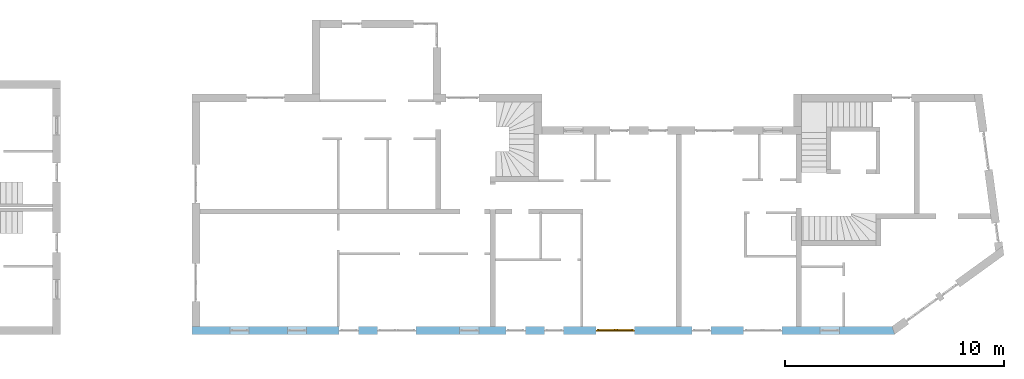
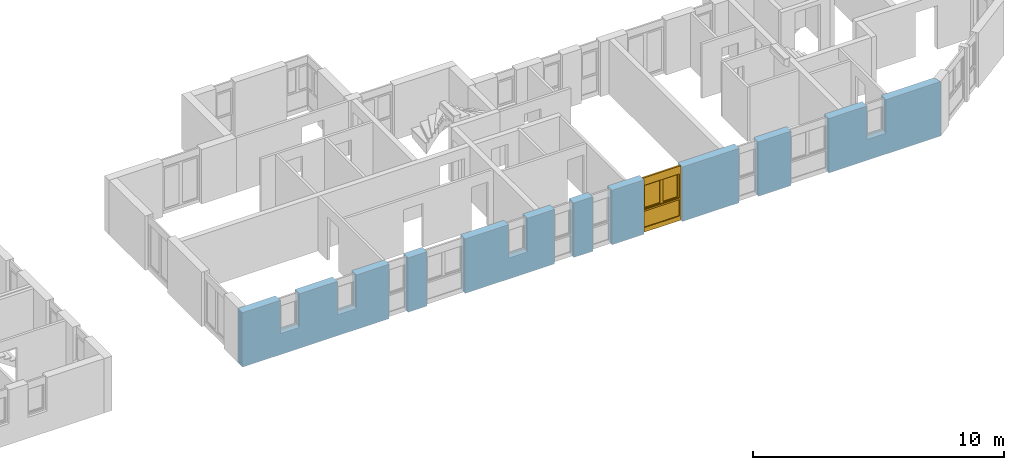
# One storey, part 31 of 42: 1 window, 11 openings, plus 1 element that does not belong to this part.
"""IFC2X3 building model written with IfcOpenShell, lengths in millimetres."""

from ifc_helpers import new_model, entity, si_unit, converted_unit, frame, frame_2d, origin, origin_with_axes, place, context, subcontext, project, spatial, polyline, rectangle, outline, extrude, faceted_brep, material, layer, layer_set, layer_usage, type_object, element, fill, save


model = new_model("IFC2X3")

# Units and contexts
model_context = context("Model", 3, precision=1e-05, world=origin())
body_context = subcontext(model_context, "Body", "Model", "MODEL_VIEW")
ifc_project = project(units=[si_unit("LENGTHUNIT", "METRE", prefix="MILLI"), converted_unit("PLANEANGLEUNIT", "DEGREE", entity("IfcPlaneAngleMeasure", 0.0174532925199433), si_unit("PLANEANGLEUNIT", "RADIAN"), dimensions=[0, 0, 0, 0, 0, 0, 0]), si_unit("AREAUNIT", "SQUARE_METRE"), si_unit("VOLUMEUNIT", "CUBIC_METRE")], contexts=[model_context])

# Building, storey
building_placement = place(None, origin())
building = spatial("IfcBuilding", under=ifc_project, at=building_placement, Name="Gebäude", CompositionType="ELEMENT")
storey_placement = place(building_placement, frame((0.0, 0.0, 2730.0), z_axis=(0.0, 0.0, 1.0), x_axis=(1.0, 0.0, 0.0)))
storey = spatial("IfcBuildingStorey", under=building, at=storey_placement, Name="OG.- Grundriss", CompositionType="ELEMENT", Elevation=2730.0)

# Wall, openings, window
ifc_material_1 = material(Name="Poroton")
ifc_layer = layer(ifc_material_1, 365.0000000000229)
ifc_layer_set = layer_set([ifc_layer])
ifc_layer_usage = layer_usage(ifc_layer_set, "AXIS2", "POSITIVE", 0.0)
wall_placement = place(storey_placement, frame((148357.7928067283, 125274.8877324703, 0.0), z_axis=(0.0, 0.0, 1.0), x_axis=(1.0, -2.749268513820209e-11, 0.0)))
wall = element("IfcWallStandardCase", 1, at=wall_placement, inside=storey, material=ifc_layer_usage, Name="<Unnamed Element>", context=body_context, shape_type="SweptSolid", body=[
    extrude(outline(polyline([(0.0, 0.0), (32144.99999877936, 0.0), (32026.74038666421, 365.0000000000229), (-1.003483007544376e-08, 365.0), (0.0, 0.0)])), origin_with_axes(), (0.0, 0.0, 1.0), 2650.0),
])
opening_1_placement = place(wall_placement, frame((22865.29648749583, -9.393166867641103e-11, 0.0), z_axis=(0.0, 1.0, 0.0), x_axis=(0.0, 0.0, 1.0)))
element("IfcOpeningElement", 2, at=opening_1_placement, cuts=wall, Name="Fensteröffnung", ObjectType="Opening", context=body_context, shape_type="SweptSolid", body=[
    extrude(rectangle(XDim=2650.0, YDim=885.0, at=frame_2d((1325.0, 442.5), x_axis=(1.0, 0.0))), origin_with_axes(), (0.0, 0.0, 1.0), 365.0000000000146),
])
opening_2_placement = place(wall_placement, frame((25240.29648749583, -1.030266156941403e-10, 0.0), z_axis=(0.0, 1.0, 0.0), x_axis=(0.0, 0.0, 1.0)))
element("IfcOpeningElement", 3, at=opening_2_placement, cuts=wall, Name="Fensteröffnung", ObjectType="Opening", context=body_context, shape_type="SweptSolid", body=[
    extrude(rectangle(XDim=2650.0, YDim=1760.0, at=frame_2d((1325.0, 880.0), x_axis=(1.0, 0.0))), origin_with_axes(), (0.0, 0.0, 1.0), 365.0000000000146),
])
opening_3_placement = place(wall_placement, frame((14365.26291869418, -5.847463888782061e-11, 0.0), z_axis=(0.0, 1.0, 0.0), x_axis=(0.0, 0.0, 1.0)))
element("IfcOpeningElement", 4, at=opening_3_placement, cuts=wall, Name="Fensteröffnung", ObjectType="Opening", context=body_context, shape_type="SweptSolid", body=[
    extrude(rectangle(XDim=2650.0, YDim=885.0, at=frame_2d((1325.0, 442.5), x_axis=(1.0, 0.0))), origin_with_axes(), (0.0, 0.0, 1.0), 365.0000000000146),
])
opening_4_placement = place(wall_placement, frame((16123.92212975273, -7.146586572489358e-11, 0.0), z_axis=(0.0, 1.0, 0.0), x_axis=(0.0, 0.0, 1.0)))
element("IfcOpeningElement", 5, at=opening_4_placement, cuts=wall, Name="Fensteröffnung", ObjectType="Opening", context=body_context, shape_type="SweptSolid", body=[
    extrude(rectangle(XDim=2650.0, YDim=885.0, at=frame_2d((1325.0, 442.5), x_axis=(1.0, 0.0))), origin_with_axes(), (0.0, 0.0, 1.0), 365.0000000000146),
])
opening_5_placement = place(wall_placement, frame((6739.999999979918, -3.114109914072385e-11, 0.0), z_axis=(0.0, 1.0, 0.0), x_axis=(0.0, 0.0, 1.0)))
element("IfcOpeningElement", 6, at=opening_5_placement, cuts=wall, Name="Fensteröffnung", ObjectType="Opening", context=body_context, shape_type="SweptSolid", body=[
    extrude(rectangle(XDim=2650.0, YDim=885.0, at=frame_2d((1325.0, 442.5), x_axis=(1.0, 0.0))), origin_with_axes(), (0.0, 0.0, 1.0), 365.0000000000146),
])
opening_6_placement = place(wall_placement, frame((8489.999999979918, -3.477907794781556e-11, 0.0), z_axis=(0.0, 1.0, 0.0), x_axis=(0.0, 0.0, 1.0)))
element("IfcOpeningElement", 7, at=opening_6_placement, cuts=wall, Name="Fensteröffnung", ObjectType="Opening", context=body_context, shape_type="SweptSolid", body=[
    extrude(rectangle(XDim=2650.0, YDim=1760.0, at=frame_2d((1325.0, 880.0), x_axis=(1.0, 0.0))), origin_with_axes(), (0.0, 0.0, 1.0), 365.0000000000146),
])
opening_7_placement = place(wall_placement, frame((1740.0, -3.114109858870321e-11, 1020.0), z_axis=(0.0, 1.0, 0.0), x_axis=(0.0, 0.0, 1.0)))
element("IfcOpeningElement", 8, at=opening_7_placement, cuts=wall, Name="Fensteröffnung", ObjectType="Opening", context=body_context, shape_type="SweptSolid", body=[
    extrude(rectangle(XDim=1630.0, YDim=885.0, at=frame_2d((815.0, 442.5), x_axis=(1.0, 0.0))), origin_with_axes(), (0.0, 0.0, 1.0), 365.0000000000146),
])
opening_8_placement = place(wall_placement, frame((4365.0, -7.494236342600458e-12, 1020.0), z_axis=(0.0, 1.0, 0.0), x_axis=(0.0, 0.0, 1.0)))
element("IfcOpeningElement", 9, at=opening_8_placement, cuts=wall, Name="Fensteröffnung", ObjectType="Opening", context=body_context, shape_type="SweptSolid", body=[
    extrude(rectangle(XDim=1630.0, YDim=885.0, at=frame_2d((815.0, 442.5), x_axis=(1.0, 0.0))), origin_with_axes(), (0.0, 0.0, 1.0), 365.0000000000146),
])
opening_9_placement = place(wall_placement, frame((12240.0, -5.296897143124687e-11, 1020.0), z_axis=(0.0, 1.0, 0.0), x_axis=(0.0, 0.0, 1.0)))
element("IfcOpeningElement", 10, at=opening_9_placement, cuts=wall, Name="Fensteröffnung", ObjectType="Opening", context=body_context, shape_type="SweptSolid", body=[
    extrude(rectangle(XDim=1630.0, YDim=885.0, at=frame_2d((815.0, 442.5), x_axis=(1.0, 0.0))), origin_with_axes(), (0.0, 0.0, 1.0), 365.0000000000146),
])
opening_10_placement = place(wall_placement, frame((18490.51063065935, -4.984640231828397e-11, 0.0), z_axis=(0.0, 1.0, 0.0), x_axis=(0.0, 0.0, 1.0)))
opening_10 = element("IfcOpeningElement", 11, at=opening_10_placement, cuts=wall, Name="Fensteröffnung", ObjectType="Opening", context=body_context, shape_type="SweptSolid", body=[
    extrude(rectangle(XDim=2650.0, YDim=1760.0, at=frame_2d((1325.0, 880.0), x_axis=(1.0, 0.0))), origin_with_axes(), (0.0, 0.0, 1.0), 365.0000000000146),
])
opening_11_placement = place(wall_placement, frame((28740.29648749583, -1.103025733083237e-10, 1020.0), z_axis=(0.0, 1.0, 0.0), x_axis=(0.0, 0.0, 1.0)))
element("IfcOpeningElement", 12, at=opening_11_placement, cuts=wall, Name="Fensteröffnung", ObjectType="Opening", context=body_context, shape_type="SweptSolid", body=[
    extrude(rectangle(XDim=1630.0, YDim=885.0, at=frame_2d((815.0, 442.5), x_axis=(1.0, 0.0))), origin_with_axes(), (0.0, 0.0, 1.0), 365.0000000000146),
])
ifc_material_2 = material()
window_style = type_object("IfcWindowStyle", Name="Fenster", ConstructionType="NOTDEFINED", OperationType="USERDEFINED", ParameterTakesPrecedence=False, Sizeable=False)
window_placement = place(opening_10_placement, frame((0.0, 0.0, 0.0), z_axis=(1.0, 0.0, 0.0), x_axis=(0.0, 1.0, 0.0)))
window = element("IfcWindow", 13, at=window_placement, inside=storey, type_object=window_style, material=ifc_material_2, Name="Fenster", OverallHeight=2650.0, OverallWidth=1760.0, context=body_context, shape_type="Brep", body=[
    faceted_brep([(-1.221113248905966e-08, 199.9999999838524, 2650.0), (-1.221113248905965e-08, 199.9999999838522, -2.449293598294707e-15), (69.99999998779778, 199.9999999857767, -2.449293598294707e-15), (69.99999998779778, 199.9999999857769, 2650.0), (-1.001171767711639e-08, 119.9999999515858, 2.449293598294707e-15), (-1.00117176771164e-08, 119.9999999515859, 2650.0), (69.99999998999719, 119.9999999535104, 2650.0), (69.99999998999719, 119.9999999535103, 2.449293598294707e-15), (-1.221113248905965e-08, 199.9999999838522, -2.449293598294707e-15), (-1.221113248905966e-08, 199.9999999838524, 2650.0), (-1.00117176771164e-08, 119.9999999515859, 2650.0), (-1.001171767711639e-08, 119.9999999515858, 2.449293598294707e-15), (69.99999998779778, 199.9999999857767, -2.449293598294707e-15), (-1.221113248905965e-08, 199.9999999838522, -2.449293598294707e-15), (-1.001171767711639e-08, 119.9999999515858, 2.449293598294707e-15), (69.99999998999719, 119.9999999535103, 2.449293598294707e-15), (69.99999998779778, 199.9999999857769, 2650.0), (69.99999998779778, 199.9999999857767, -2.449293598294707e-15), (69.99999998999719, 119.9999999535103, 2.449293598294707e-15), (69.99999998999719, 119.9999999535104, 2650.0), (-1.221113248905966e-08, 199.9999999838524, 2650.0), (69.99999998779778, 199.9999999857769, 2650.0), (69.99999998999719, 119.9999999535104, 2650.0), (-1.00117176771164e-08, 119.9999999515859, 2650.0)], [[[0, 1, 2, 3]], [[4, 5, 6, 7]], [[8, 9, 10, 11]], [[12, 13, 14, 15]], [[16, 17, 18, 19]], [[20, 21, 22, 23]]], orient=[[False], [False], [False], [False], [False], [False]]),
    faceted_brep([(1690.000000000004, 200.000000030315, 2650.0), (1690.000000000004, 200.0000000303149, -2.449293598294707e-15), (1760.000000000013, 200.0000000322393, -2.449293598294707e-15), (1760.000000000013, 200.0000000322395, 2650.0), (1690.000000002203, 119.9999999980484, 2.449293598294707e-15), (1690.000000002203, 119.9999999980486, 2650.0), (1760.000000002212, 119.9999999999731, 2650.0), (1760.000000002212, 119.9999999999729, 2.449293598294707e-15), (1690.000000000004, 200.0000000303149, -2.449293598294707e-15), (1690.000000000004, 200.000000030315, 2650.0), (1690.000000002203, 119.9999999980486, 2650.0), (1690.000000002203, 119.9999999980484, 2.449293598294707e-15), (1760.000000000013, 200.0000000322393, -2.449293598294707e-15), (1690.000000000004, 200.0000000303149, -2.449293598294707e-15), (1690.000000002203, 119.9999999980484, 2.449293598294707e-15), (1760.000000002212, 119.9999999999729, 2.449293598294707e-15), (1760.000000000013, 200.0000000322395, 2650.0), (1760.000000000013, 200.0000000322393, -2.449293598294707e-15), (1760.000000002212, 119.9999999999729, 2.449293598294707e-15), (1760.000000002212, 119.9999999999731, 2650.0), (1690.000000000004, 200.000000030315, 2650.0), (1760.000000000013, 200.0000000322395, 2650.0), (1760.000000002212, 119.9999999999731, 2650.0), (1690.000000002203, 119.9999999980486, 2650.0)], [[[0, 1, 2, 3]], [[4, 5, 6, 7]], [[8, 9, 10, 11]], [[12, 13, 14, 15]], [[16, 17, 18, 19]], [[20, 21, 22, 23]]], orient=[[False], [False], [False], [False], [False], [False]]),
    faceted_brep([(69.99999998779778, 199.9999999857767, 220.0), (69.99999998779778, 199.9999999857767, -2.449293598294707e-15), (1690.000000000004, 200.0000000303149, -2.449293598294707e-15), (1690.000000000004, 200.0000000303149, 220.0), (69.99999998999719, 119.9999999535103, 2.449293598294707e-15), (69.99999998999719, 119.9999999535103, 220.0), (1690.000000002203, 119.9999999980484, 220.0), (1690.000000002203, 119.9999999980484, 2.449293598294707e-15), (69.99999998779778, 199.9999999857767, -2.449293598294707e-15), (69.99999998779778, 199.9999999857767, 220.0), (69.99999998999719, 119.9999999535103, 220.0), (69.99999998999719, 119.9999999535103, 2.449293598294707e-15), (1690.000000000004, 200.0000000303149, -2.449293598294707e-15), (69.99999998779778, 199.9999999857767, -2.449293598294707e-15), (69.99999998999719, 119.9999999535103, 2.449293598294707e-15), (1690.000000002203, 119.9999999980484, 2.449293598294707e-15), (1690.000000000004, 200.0000000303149, 220.0), (1690.000000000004, 200.0000000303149, -2.449293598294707e-15), (1690.000000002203, 119.9999999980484, 2.449293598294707e-15), (1690.000000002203, 119.9999999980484, 220.0), (69.99999998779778, 199.9999999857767, 220.0), (1690.000000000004, 200.0000000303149, 220.0), (1690.000000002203, 119.9999999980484, 220.0), (69.99999998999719, 119.9999999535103, 220.0)], [[[0, 1, 2, 3]], [[4, 5, 6, 7]], [[8, 9, 10, 11]], [[12, 13, 14, 15]], [[16, 17, 18, 19]], [[20, 21, 22, 23]]], orient=[[False], [False], [False], [False], [False], [False]]),
    faceted_brep([(69.99999998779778, 199.9999999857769, 2650.0), (69.99999998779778, 199.9999999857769, 2280.0), (1690.000000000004, 200.000000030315, 2280.0), (1690.000000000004, 200.000000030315, 2650.0), (69.99999998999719, 119.9999999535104, 2280.0), (69.99999998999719, 119.9999999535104, 2650.0), (1690.000000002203, 119.9999999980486, 2650.0), (1690.000000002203, 119.9999999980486, 2280.0), (69.99999998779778, 199.9999999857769, 2280.0), (69.99999998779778, 199.9999999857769, 2650.0), (69.99999998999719, 119.9999999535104, 2650.0), (69.99999998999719, 119.9999999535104, 2280.0), (1690.000000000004, 200.000000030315, 2280.0), (69.99999998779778, 199.9999999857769, 2280.0), (69.99999998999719, 119.9999999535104, 2280.0), (1690.000000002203, 119.9999999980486, 2280.0), (1690.000000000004, 200.000000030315, 2650.0), (1690.000000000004, 200.000000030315, 2280.0), (1690.000000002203, 119.9999999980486, 2280.0), (1690.000000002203, 119.9999999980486, 2650.0), (69.99999998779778, 199.9999999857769, 2650.0), (1690.000000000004, 200.000000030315, 2650.0), (1690.000000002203, 119.9999999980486, 2650.0), (69.99999998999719, 119.9999999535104, 2650.0)], [[[0, 1, 2, 3]], [[4, 5, 6, 7]], [[8, 9, 10, 11]], [[12, 13, 14, 15]], [[16, 17, 18, 19]], [[20, 21, 22, 23]]], orient=[[False], [False], [False], [False], [False], [False]]),
    faceted_brep([(69.99999998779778, 199.9999999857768, 1090.0), (69.99999998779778, 199.9999999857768, 1020.0), (1690.000000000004, 200.0000000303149, 1020.0), (1690.000000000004, 200.0000000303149, 1090.0), (69.99999998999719, 119.9999999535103, 1020.0), (69.99999998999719, 119.9999999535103, 1090.0), (1690.000000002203, 119.9999999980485, 1090.0), (1690.000000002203, 119.9999999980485, 1020.0), (69.99999998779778, 199.9999999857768, 1020.0), (69.99999998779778, 199.9999999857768, 1090.0), (69.99999998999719, 119.9999999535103, 1090.0), (69.99999998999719, 119.9999999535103, 1020.0), (1690.000000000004, 200.0000000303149, 1020.0), (69.99999998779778, 199.9999999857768, 1020.0), (69.99999998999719, 119.9999999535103, 1020.0), (1690.000000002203, 119.9999999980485, 1020.0), (1690.000000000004, 200.0000000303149, 1090.0), (1690.000000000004, 200.0000000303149, 1020.0), (1690.000000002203, 119.9999999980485, 1020.0), (1690.000000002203, 119.9999999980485, 1090.0), (69.99999998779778, 199.9999999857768, 1090.0), (1690.000000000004, 200.0000000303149, 1090.0), (1690.000000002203, 119.9999999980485, 1090.0), (69.99999998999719, 119.9999999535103, 1090.0)], [[[0, 1, 2, 3]], [[4, 5, 6, 7]], [[8, 9, 10, 11]], [[12, 13, 14, 15]], [[16, 17, 18, 19]], [[20, 21, 22, 23]]], orient=[[False], [False], [False], [False], [False], [False]]),
    faceted_brep([(69.99999998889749, 159.9999999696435, 220.0), (1690.000000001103, 160.0000000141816, 220.0), (1690.000000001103, 160.0000000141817, 1020.0), (69.99999998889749, 159.9999999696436, 1020.0), (69.99999998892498, 158.9999999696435, 220.0), (69.99999998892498, 158.9999999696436, 1020.0), (1690.000000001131, 159.0000000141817, 1020.0), (1690.000000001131, 159.0000000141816, 220.0), (69.99999998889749, 159.9999999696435, 220.0), (69.99999998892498, 158.9999999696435, 220.0), (1690.000000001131, 159.0000000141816, 220.0), (1690.000000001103, 160.0000000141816, 220.0), (1690.000000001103, 160.0000000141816, 220.0), (1690.000000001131, 159.0000000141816, 220.0), (1690.000000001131, 159.0000000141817, 1020.0), (1690.000000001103, 160.0000000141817, 1020.0), (1690.000000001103, 160.0000000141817, 1020.0), (1690.000000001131, 159.0000000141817, 1020.0), (69.99999998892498, 158.9999999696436, 1020.0), (69.99999998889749, 159.9999999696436, 1020.0), (69.99999998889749, 159.9999999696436, 1020.0), (69.99999998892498, 158.9999999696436, 1020.0), (69.99999998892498, 158.9999999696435, 220.0), (69.99999998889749, 159.9999999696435, 220.0)], [[[0, 1, 2, 3]], [[4, 5, 6, 7]], [[8, 9, 10, 11]], [[12, 13, 14, 15]], [[16, 17, 18, 19]], [[20, 21, 22, 23]]], orient=[[False], [False], [False], [False], [False], [False]]),
    faceted_brep([(49.99999998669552, 240.0000000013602, 2300.0), (49.99999998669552, 240.0000000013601, 1070.0), (119.9999999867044, 240.0000000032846, 1070.0), (119.9999999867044, 240.0000000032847, 2300.0), (49.99999998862, 169.999999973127, 1070.0), (49.99999998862, 169.9999999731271, 2300.0), (119.9999999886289, 169.9999999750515, 2300.0), (119.9999999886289, 169.9999999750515, 1070.0), (49.99999998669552, 240.0000000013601, 1070.0), (49.99999998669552, 240.0000000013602, 2300.0), (49.99999998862, 169.9999999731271, 2300.0), (49.99999998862, 169.999999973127, 1070.0), (119.9999999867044, 240.0000000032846, 1070.0), (49.99999998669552, 240.0000000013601, 1070.0), (49.99999998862, 169.999999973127, 1070.0), (119.9999999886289, 169.9999999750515, 1070.0), (119.9999999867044, 240.0000000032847, 2300.0), (119.9999999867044, 240.0000000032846, 1070.0), (119.9999999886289, 169.9999999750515, 1070.0), (119.9999999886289, 169.9999999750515, 2300.0), (49.99999998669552, 240.0000000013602, 2300.0), (119.9999999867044, 240.0000000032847, 2300.0), (119.9999999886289, 169.9999999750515, 2300.0), (49.99999998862, 169.9999999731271, 2300.0)], [[[0, 1, 2, 3]], [[4, 5, 6, 7]], [[8, 9, 10, 11]], [[12, 13, 14, 15]], [[16, 17, 18, 19]], [[20, 21, 22, 23]]], orient=[[False], [False], [False], [False], [False], [False]]),
    faceted_brep([(829.4999999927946, 240.0000000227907, 2300.0), (829.4999999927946, 240.0000000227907, 1070.0), (899.4999999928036, 240.0000000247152, 1070.0), (899.4999999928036, 240.0000000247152, 2300.0), (829.4999999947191, 169.9999999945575, 1070.0), (829.4999999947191, 169.9999999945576, 2300.0), (899.4999999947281, 169.9999999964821, 2300.0), (899.4999999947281, 169.999999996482, 1070.0), (829.4999999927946, 240.0000000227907, 1070.0), (829.4999999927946, 240.0000000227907, 2300.0), (829.4999999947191, 169.9999999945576, 2300.0), (829.4999999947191, 169.9999999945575, 1070.0), (899.4999999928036, 240.0000000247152, 1070.0), (829.4999999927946, 240.0000000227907, 1070.0), (829.4999999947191, 169.9999999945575, 1070.0), (899.4999999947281, 169.999999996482, 1070.0), (899.4999999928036, 240.0000000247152, 2300.0), (899.4999999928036, 240.0000000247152, 1070.0), (899.4999999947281, 169.999999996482, 1070.0), (899.4999999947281, 169.9999999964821, 2300.0), (829.4999999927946, 240.0000000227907, 2300.0), (899.4999999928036, 240.0000000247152, 2300.0), (899.4999999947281, 169.9999999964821, 2300.0), (829.4999999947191, 169.9999999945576, 2300.0)], [[[0, 1, 2, 3]], [[4, 5, 6, 7]], [[8, 9, 10, 11]], [[12, 13, 14, 15]], [[16, 17, 18, 19]], [[20, 21, 22, 23]]], orient=[[False], [False], [False], [False], [False], [False]]),
    faceted_brep([(119.9999999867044, 240.0000000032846, 1140.0), (119.9999999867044, 240.0000000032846, 1070.0), (829.4999999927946, 240.0000000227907, 1070.0), (829.4999999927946, 240.0000000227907, 1140.0), (119.9999999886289, 169.9999999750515, 1070.0), (119.9999999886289, 169.9999999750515, 1140.0), (829.4999999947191, 169.9999999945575, 1140.0), (829.4999999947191, 169.9999999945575, 1070.0), (119.9999999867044, 240.0000000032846, 1070.0), (119.9999999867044, 240.0000000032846, 1140.0), (119.9999999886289, 169.9999999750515, 1140.0), (119.9999999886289, 169.9999999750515, 1070.0), (829.4999999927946, 240.0000000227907, 1070.0), (119.9999999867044, 240.0000000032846, 1070.0), (119.9999999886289, 169.9999999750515, 1070.0), (829.4999999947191, 169.9999999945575, 1070.0), (829.4999999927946, 240.0000000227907, 1140.0), (829.4999999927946, 240.0000000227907, 1070.0), (829.4999999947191, 169.9999999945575, 1070.0), (829.4999999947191, 169.9999999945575, 1140.0), (119.9999999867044, 240.0000000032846, 1140.0), (829.4999999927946, 240.0000000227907, 1140.0), (829.4999999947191, 169.9999999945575, 1140.0), (119.9999999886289, 169.9999999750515, 1140.0)], [[[0, 1, 2, 3]], [[4, 5, 6, 7]], [[8, 9, 10, 11]], [[12, 13, 14, 15]], [[16, 17, 18, 19]], [[20, 21, 22, 23]]], orient=[[False], [False], [False], [False], [False], [False]]),
    faceted_brep([(119.9999999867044, 240.0000000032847, 2300.0), (119.9999999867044, 240.0000000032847, 2230.0), (829.4999999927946, 240.0000000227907, 2230.0), (829.4999999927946, 240.0000000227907, 2300.0), (119.9999999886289, 169.9999999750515, 2230.0), (119.9999999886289, 169.9999999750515, 2300.0), (829.4999999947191, 169.9999999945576, 2300.0), (829.4999999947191, 169.9999999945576, 2230.0), (119.9999999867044, 240.0000000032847, 2230.0), (119.9999999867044, 240.0000000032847, 2300.0), (119.9999999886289, 169.9999999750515, 2300.0), (119.9999999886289, 169.9999999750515, 2230.0), (829.4999999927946, 240.0000000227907, 2230.0), (119.9999999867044, 240.0000000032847, 2230.0), (119.9999999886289, 169.9999999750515, 2230.0), (829.4999999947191, 169.9999999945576, 2230.0), (829.4999999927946, 240.0000000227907, 2300.0), (829.4999999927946, 240.0000000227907, 2230.0), (829.4999999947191, 169.9999999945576, 2230.0), (829.4999999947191, 169.9999999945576, 2300.0), (119.9999999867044, 240.0000000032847, 2300.0), (829.4999999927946, 240.0000000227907, 2300.0), (829.4999999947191, 169.9999999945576, 2300.0), (119.9999999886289, 169.9999999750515, 2300.0)], [[[0, 1, 2, 3]], [[4, 5, 6, 7]], [[8, 9, 10, 11]], [[12, 13, 14, 15]], [[16, 17, 18, 19]], [[20, 21, 22, 23]]], orient=[[False], [False], [False], [False], [False], [False]]),
    faceted_brep([(900.4999999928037, 240.0000000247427, 2300.0), (900.4999999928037, 240.0000000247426, 1070.0), (970.4999999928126, 240.0000000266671, 1070.0), (970.4999999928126, 240.0000000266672, 2300.0), (900.4999999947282, 169.9999999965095, 1070.0), (900.4999999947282, 169.9999999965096, 2300.0), (970.4999999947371, 169.9999999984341, 2300.0), (970.4999999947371, 169.999999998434, 1070.0), (900.4999999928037, 240.0000000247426, 1070.0), (900.4999999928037, 240.0000000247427, 2300.0), (900.4999999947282, 169.9999999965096, 2300.0), (900.4999999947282, 169.9999999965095, 1070.0), (970.4999999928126, 240.0000000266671, 1070.0), (900.4999999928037, 240.0000000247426, 1070.0), (900.4999999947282, 169.9999999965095, 1070.0), (970.4999999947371, 169.999999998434, 1070.0), (970.4999999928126, 240.0000000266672, 2300.0), (970.4999999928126, 240.0000000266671, 1070.0), (970.4999999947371, 169.999999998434, 1070.0), (970.4999999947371, 169.9999999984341, 2300.0), (900.4999999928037, 240.0000000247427, 2300.0), (970.4999999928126, 240.0000000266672, 2300.0), (970.4999999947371, 169.9999999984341, 2300.0), (900.4999999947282, 169.9999999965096, 2300.0)], [[[0, 1, 2, 3]], [[4, 5, 6, 7]], [[8, 9, 10, 11]], [[12, 13, 14, 15]], [[16, 17, 18, 19]], [[20, 21, 22, 23]]], orient=[[False], [False], [False], [False], [False], [False]]),
    faceted_brep([(1639.999999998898, 240.0000000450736, 2300.0), (1639.999999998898, 240.0000000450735, 1070.0), (1709.999999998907, 240.000000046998, 1070.0), (1709.999999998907, 240.0000000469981, 2300.0), (1640.000000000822, 170.0000000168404, 1070.0), (1640.000000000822, 170.0000000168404, 2300.0), (1710.000000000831, 170.0000000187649, 2300.0), (1710.000000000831, 170.0000000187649, 1070.0), (1639.999999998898, 240.0000000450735, 1070.0), (1639.999999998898, 240.0000000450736, 2300.0), (1640.000000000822, 170.0000000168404, 2300.0), (1640.000000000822, 170.0000000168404, 1070.0), (1709.999999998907, 240.000000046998, 1070.0), (1639.999999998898, 240.0000000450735, 1070.0), (1640.000000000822, 170.0000000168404, 1070.0), (1710.000000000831, 170.0000000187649, 1070.0), (1709.999999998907, 240.0000000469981, 2300.0), (1709.999999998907, 240.000000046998, 1070.0), (1710.000000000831, 170.0000000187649, 1070.0), (1710.000000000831, 170.0000000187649, 2300.0), (1639.999999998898, 240.0000000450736, 2300.0), (1709.999999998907, 240.0000000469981, 2300.0), (1710.000000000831, 170.0000000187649, 2300.0), (1640.000000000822, 170.0000000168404, 2300.0)], [[[0, 1, 2, 3]], [[4, 5, 6, 7]], [[8, 9, 10, 11]], [[12, 13, 14, 15]], [[16, 17, 18, 19]], [[20, 21, 22, 23]]], orient=[[False], [False], [False], [False], [False], [False]]),
    faceted_brep([(970.4999999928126, 240.0000000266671, 1140.0), (970.4999999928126, 240.0000000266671, 1070.0), (1639.999999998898, 240.0000000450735, 1070.0), (1639.999999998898, 240.0000000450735, 1140.0), (970.4999999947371, 169.999999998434, 1070.0), (970.4999999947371, 169.999999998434, 1140.0), (1640.000000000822, 170.0000000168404, 1140.0), (1640.000000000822, 170.0000000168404, 1070.0), (970.4999999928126, 240.0000000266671, 1070.0), (970.4999999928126, 240.0000000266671, 1140.0), (970.4999999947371, 169.999999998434, 1140.0), (970.4999999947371, 169.999999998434, 1070.0), (1639.999999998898, 240.0000000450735, 1070.0), (970.4999999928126, 240.0000000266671, 1070.0), (970.4999999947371, 169.999999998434, 1070.0), (1640.000000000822, 170.0000000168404, 1070.0), (1639.999999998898, 240.0000000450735, 1140.0), (1639.999999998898, 240.0000000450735, 1070.0), (1640.000000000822, 170.0000000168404, 1070.0), (1640.000000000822, 170.0000000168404, 1140.0), (970.4999999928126, 240.0000000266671, 1140.0), (1639.999999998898, 240.0000000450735, 1140.0), (1640.000000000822, 170.0000000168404, 1140.0), (970.4999999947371, 169.999999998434, 1140.0)], [[[0, 1, 2, 3]], [[4, 5, 6, 7]], [[8, 9, 10, 11]], [[12, 13, 14, 15]], [[16, 17, 18, 19]], [[20, 21, 22, 23]]], orient=[[False], [False], [False], [False], [False], [False]]),
    faceted_brep([(970.4999999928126, 240.0000000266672, 2300.0), (970.4999999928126, 240.0000000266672, 2230.0), (1639.999999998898, 240.0000000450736, 2230.0), (1639.999999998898, 240.0000000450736, 2300.0), (970.4999999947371, 169.9999999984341, 2230.0), (970.4999999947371, 169.9999999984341, 2300.0), (1640.000000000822, 170.0000000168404, 2300.0), (1640.000000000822, 170.0000000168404, 2230.0), (970.4999999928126, 240.0000000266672, 2230.0), (970.4999999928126, 240.0000000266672, 2300.0), (970.4999999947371, 169.9999999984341, 2300.0), (970.4999999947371, 169.9999999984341, 2230.0), (1639.999999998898, 240.0000000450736, 2230.0), (970.4999999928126, 240.0000000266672, 2230.0), (970.4999999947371, 169.9999999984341, 2230.0), (1640.000000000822, 170.0000000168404, 2230.0), (1639.999999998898, 240.0000000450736, 2300.0), (1639.999999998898, 240.0000000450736, 2230.0), (1640.000000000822, 170.0000000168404, 2230.0), (1640.000000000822, 170.0000000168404, 2300.0), (970.4999999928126, 240.0000000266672, 2300.0), (1639.999999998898, 240.0000000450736, 2300.0), (1640.000000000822, 170.0000000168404, 2300.0), (970.4999999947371, 169.9999999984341, 2300.0)], [[[0, 1, 2, 3]], [[4, 5, 6, 7]], [[8, 9, 10, 11]], [[12, 13, 14, 15]], [[16, 17, 18, 19]], [[20, 21, 22, 23]]], orient=[[False], [False], [False], [False], [False], [False]]),
    faceted_brep([(119.9999999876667, 204.9999999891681, 1140.0), (829.4999999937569, 205.0000000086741, 1140.0), (829.4999999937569, 205.0000000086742, 2230.0), (119.9999999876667, 204.9999999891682, 2230.0), (119.9999999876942, 203.9999999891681, 1140.0), (119.9999999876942, 203.9999999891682, 2230.0), (829.4999999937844, 204.0000000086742, 2230.0), (829.4999999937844, 204.0000000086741, 1140.0), (119.9999999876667, 204.9999999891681, 1140.0), (119.9999999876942, 203.9999999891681, 1140.0), (829.4999999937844, 204.0000000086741, 1140.0), (829.4999999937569, 205.0000000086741, 1140.0), (829.4999999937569, 205.0000000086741, 1140.0), (829.4999999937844, 204.0000000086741, 1140.0), (829.4999999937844, 204.0000000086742, 2230.0), (829.4999999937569, 205.0000000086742, 2230.0), (829.4999999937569, 205.0000000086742, 2230.0), (829.4999999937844, 204.0000000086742, 2230.0), (119.9999999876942, 203.9999999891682, 2230.0), (119.9999999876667, 204.9999999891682, 2230.0), (119.9999999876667, 204.9999999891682, 2230.0), (119.9999999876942, 203.9999999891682, 2230.0), (119.9999999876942, 203.9999999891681, 1140.0), (119.9999999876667, 204.9999999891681, 1140.0)], [[[0, 1, 2, 3]], [[4, 5, 6, 7]], [[8, 9, 10, 11]], [[12, 13, 14, 15]], [[16, 17, 18, 19]], [[20, 21, 22, 23]]], orient=[[False], [False], [False], [False], [False], [False]]),
    faceted_brep([(970.499999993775, 205.0000000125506, 1140.0), (1639.99999999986, 205.000000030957, 1140.0), (1639.99999999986, 205.000000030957, 2230.0), (970.499999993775, 205.0000000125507, 2230.0), (970.4999999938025, 204.0000000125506, 1140.0), (970.4999999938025, 204.0000000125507, 2230.0), (1639.999999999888, 204.000000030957, 2230.0), (1639.999999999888, 204.000000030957, 1140.0), (970.499999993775, 205.0000000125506, 1140.0), (970.4999999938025, 204.0000000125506, 1140.0), (1639.999999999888, 204.000000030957, 1140.0), (1639.99999999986, 205.000000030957, 1140.0), (1639.99999999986, 205.000000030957, 1140.0), (1639.999999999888, 204.000000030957, 1140.0), (1639.999999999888, 204.000000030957, 2230.0), (1639.99999999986, 205.000000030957, 2230.0), (1639.99999999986, 205.000000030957, 2230.0), (1639.999999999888, 204.000000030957, 2230.0), (970.4999999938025, 204.0000000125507, 2230.0), (970.499999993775, 205.0000000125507, 2230.0), (970.499999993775, 205.0000000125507, 2230.0), (970.4999999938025, 204.0000000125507, 2230.0), (970.4999999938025, 204.0000000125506, 1140.0), (970.499999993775, 205.0000000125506, 1140.0)], [[[0, 1, 2, 3]], [[4, 5, 6, 7]], [[8, 9, 10, 11]], [[12, 13, 14, 15]], [[16, 17, 18, 19]], [[20, 21, 22, 23]]], orient=[[False], [False], [False], [False], [False], [False]]),
])
fill(opening_10, window)

save(model, "model.ifc")
